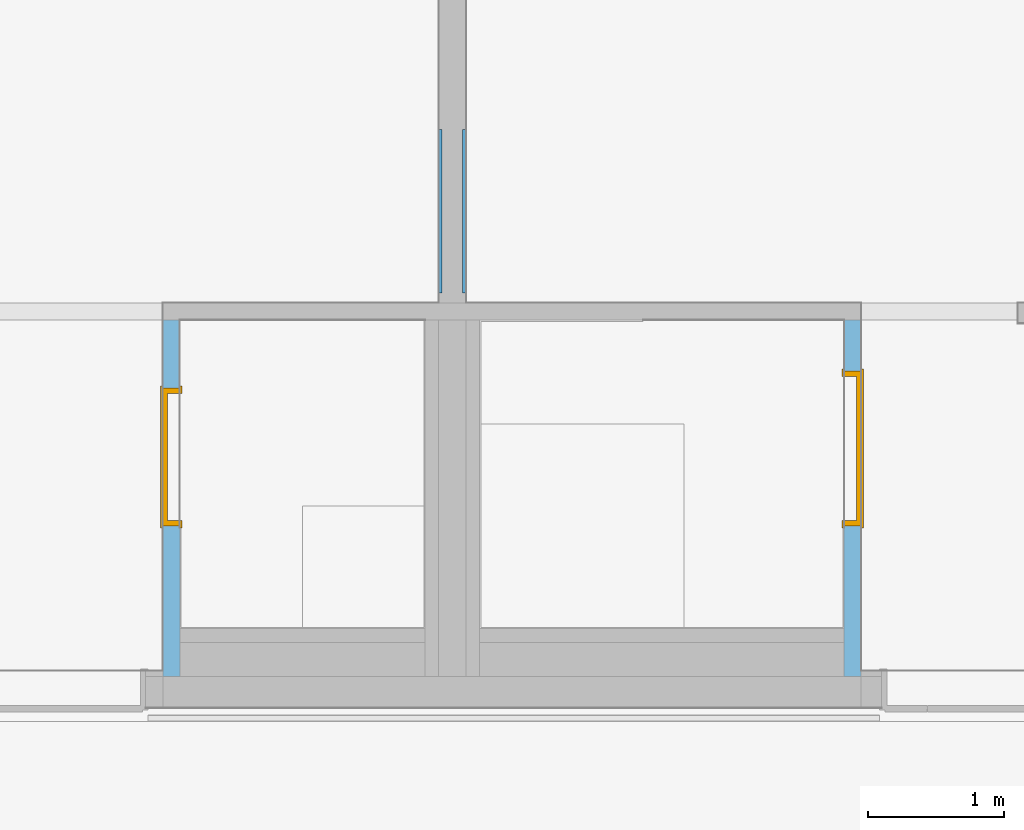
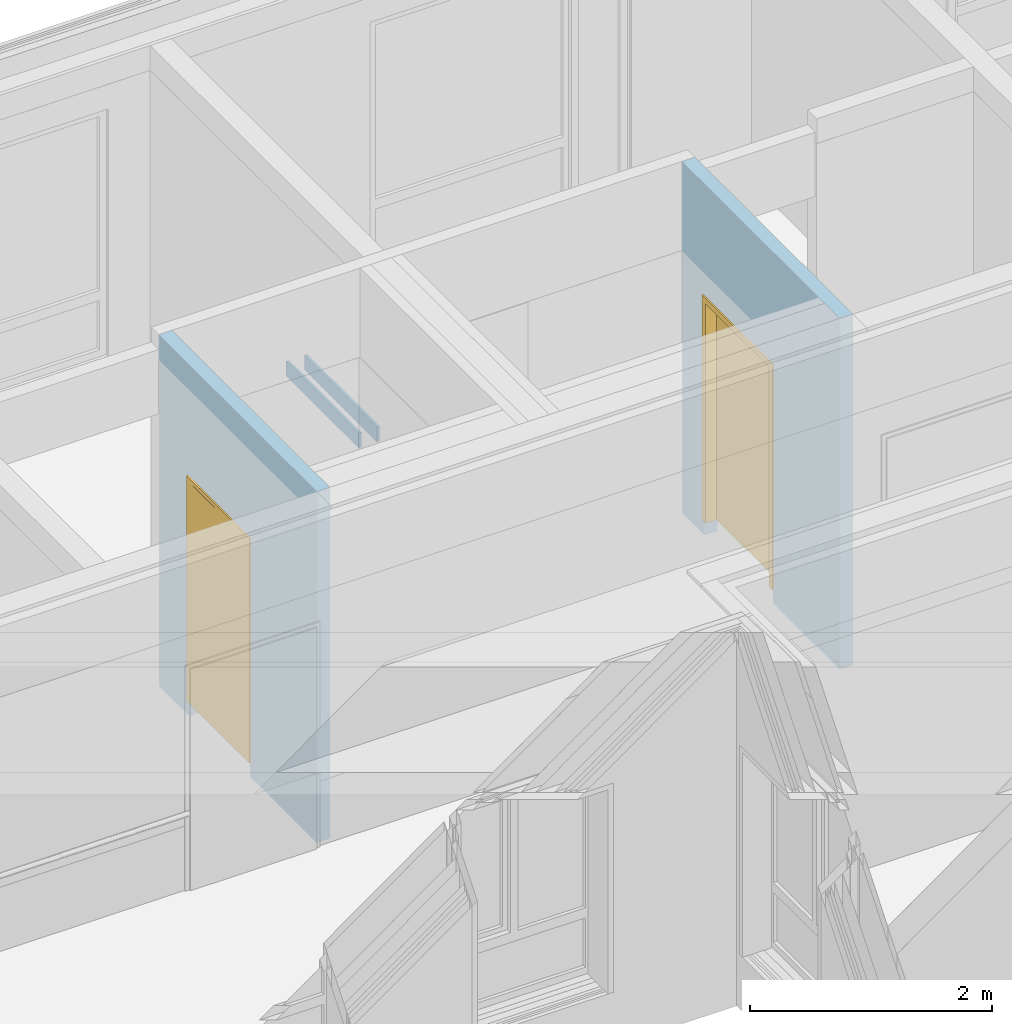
# One storey, part 143 of 222: 2 doors, 2 walls, 2 openings, plus 2 elements that do not belong to this part.
"""IFC4 building model written with IfcOpenShell, lengths in metres."""

from ifc_helpers import new_model, entity, si_unit, converted_unit, derived_unit, frame, frame_2d, origin, origin_with_axes, place, context, subcontext, project, spatial, polyline, rectangle, outline, extrude, faceted_brep, source, transform, mapped, material, type_object, element, fill, save


model = new_model("IFC4")

# Units and contexts
model_context = context("Model", 3, precision=1e-05, world=origin())
body_context = subcontext(model_context, "Body", "Model", "MODEL_VIEW")
ifc_project = project(units=[si_unit("LENGTHUNIT", "METRE"), si_unit("AREAUNIT", "SQUARE_METRE"), si_unit("VOLUMEUNIT", "CUBIC_METRE"), si_unit("MASSUNIT", "GRAM", prefix="KILO"), converted_unit("PLANEANGLEUNIT", "DEGREE", entity("IfcPlaneAngleMeasure", 0.0174532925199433), si_unit("PLANEANGLEUNIT", "RADIAN"), dimensions=[0, 0, 0, 0, 0, 0, 0]), derived_unit("THERMALTRANSMITTANCEUNIT", [(si_unit("POWERUNIT", "WATT"), 1), (si_unit("THERMODYNAMICTEMPERATUREUNIT", "KELVIN"), -1), (si_unit("LENGTHUNIT", "METRE"), -2)]), derived_unit("VOLUMETRICFLOWRATEUNIT", [(si_unit("LENGTHUNIT", "METRE"), 3), (converted_unit("TIMEUNIT", "hour", entity("IfcTimeMeasure", 3600.0), si_unit("TIMEUNIT", "SECOND"), dimensions=[0, 0, 1, 0, 0, 0, 0]), -1), (si_unit("LENGTHUNIT", "METRE"), -1)])], contexts=[model_context])

# Site, building, storey
site_placement = place(None, origin())
site = spatial("IfcSite", under=ifc_project, at=site_placement, Name="Psychiatrie Neubau Wunstorf", CompositionType="ELEMENT")
building_placement = place(site_placement, origin())
building = spatial("IfcBuilding", under=site, at=building_placement, Name="Neubau H2 Stationsgebäude", CompositionType="ELEMENT")
storey_placement = place(building_placement, frame((0.0, 0.0, 3.6)))
storey = spatial("IfcBuildingStorey", under=building, at=storey_placement, Name="H2 Ebene +1", CompositionType="ELEMENT", Elevation=3.6)

# Wall, opening, door
ifc_material_1 = material(Name="WI-LB")
wall_1_placement = place(storey_placement, frame((88.125, 27.9645000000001, 0.0), z_axis=(0.0, 0.0, 1.0), x_axis=(0.0, -1.0, 0.0)))
wall_1 = element("IfcWall", 1, at=wall_1_placement, inside=storey, material=ifc_material_1, context=body_context, shape_type="SweptSolid", body=[
    extrude(rectangle(XDim=2.61500000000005, YDim=0.125, at=frame_2d((1.30750000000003, 0.0625), x_axis=(1.0, 0.0))), origin_with_axes(), (0.0, 0.0, 1.0), 3.55),
])
opening_1_placement = place(wall_1_placement, frame((1.51000000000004, 0.125, 0.0), z_axis=(0.0, -1.0, 0.0), x_axis=(0.0, 0.0, 1.0)))
opening_1 = element("IfcOpeningElement", 2, at=opening_1_placement, cuts=wall_1, Name="Türöffnung", ObjectType="Opening", context=body_context, shape_type="SweptSolid", body=[
    extrude(outline(polyline([(2.41, 1.01), (2.41, 0.0), (0.0, 0.0), (0.0, 1.01), (2.41, 1.01)])), origin_with_axes(), (0.0, 0.0, 1.0), 0.125),
])
ifc_material_2 = material(Name="TI-1F-UZ-D-N")
door_type_1 = type_object("IfcDoorType", Name="SMT", OperationType="SINGLE_SWING_RIGHT", ParameterTakesPrecedence=False, PredefinedType="DOOR")
shared_shape_1 = source(origin_with_axes(), body_context, "Body", "Brep", [
    faceted_brep([(1.04999999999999, 0.0125000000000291, 0.0), (1.04999999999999, 0.112500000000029, 0.0), (1.00999999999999, 0.112500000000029, 0.0), (1.00999999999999, 0.0125000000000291, 0.0), (1.04999999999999, 0.112500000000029, 3.55), (1.04999999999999, 0.0125000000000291, 3.55), (1.00999999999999, 0.0125000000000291, 3.55), (1.00999999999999, 0.112500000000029, 3.55)], [[[0, 1, 2, 3]], [[4, 5, 6, 7]], [[1, 0, 5, 4]], [[2, 1, 4, 7]], [[3, 2, 7, 6]], [[0, 3, 6, 5]]], orient=[[False], [False], [False], [False], [False], [False]]),
    faceted_brep([(0.0, 0.0125000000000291, 0.0), (0.0, 0.112500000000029, 0.0), (-0.0400000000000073, 0.112500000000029, 0.0), (-0.0400000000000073, 0.0125000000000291, 0.0), (0.0, 0.112500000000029, 3.55), (0.0, 0.0125000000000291, 3.55), (-0.0400000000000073, 0.0125000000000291, 3.55), (-0.0400000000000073, 0.112500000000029, 3.55)], [[[0, 1, 2, 3]], [[4, 5, 6, 7]], [[1, 0, 5, 4]], [[2, 1, 4, 7]], [[3, 2, 7, 6]], [[0, 3, 6, 5]]], orient=[[False], [False], [False], [False], [False], [False]]),
    faceted_brep([(1.00999999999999, 0.0125000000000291, 2.41), (1.00999999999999, 0.112500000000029, 2.41), (0.0, 0.112500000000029, 2.41), (0.0, 0.0125000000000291, 2.41), (1.00999999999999, 0.112500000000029, 2.45), (1.00999999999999, 0.0125000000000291, 2.45), (0.0, 0.0125000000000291, 2.45), (0.0, 0.112500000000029, 2.45)], [[[0, 1, 2, 3]], [[4, 5, 6, 7]], [[1, 0, 5, 4]], [[2, 1, 4, 7]], [[3, 2, 7, 6]], [[0, 3, 6, 5]]], orient=[[False], [False], [False], [False], [False], [False]]),
])
shared_shape_2 = source(origin_with_axes(), body_context, "Body", "Brep", [
    faceted_brep([(0.0, -0.0149999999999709, 2.41), (0.0399999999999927, -0.0149999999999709, 2.41), (0.0399999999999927, -0.0149999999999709, 0.15), (0.0, -0.0149999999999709, 0.15), (0.0, 0.140000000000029, 0.15), (0.0399999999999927, 0.140000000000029, 0.15), (0.0399999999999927, 0.140000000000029, 2.41), (0.0, 0.140000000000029, 2.41)], [[[0, 1, 2, 3]], [[4, 5, 6, 7]], [[3, 4, 7, 0]], [[2, 5, 4, 3]], [[1, 6, 5, 2]], [[0, 7, 6, 1]]], orient=[[False], [False], [False], [False], [False], [False]]),
    faceted_brep([(0.0, -0.0149999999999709, 2.425), (0.0, -0.0149999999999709, 0.15), (-0.0150000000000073, -0.0149999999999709, 0.15), (-0.0150000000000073, -0.0149999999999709, 2.425), (0.0, 0.0, 0.15), (0.0, 0.0, 2.425), (-0.0150000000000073, 0.0, 2.425), (-0.0150000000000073, 0.0, 0.15)], [[[0, 1, 2, 3]], [[4, 5, 6, 7]], [[1, 0, 5, 4]], [[2, 1, 4, 7]], [[3, 2, 7, 6]], [[0, 3, 6, 5]]], orient=[[False], [False], [False], [False], [False], [False]]),
    faceted_brep([(0.0, 0.125000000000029, 2.425), (0.0, 0.125000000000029, 0.15), (-0.0150000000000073, 0.125000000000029, 0.15), (-0.0150000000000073, 0.125000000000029, 2.425), (0.0, 0.140000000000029, 0.15), (0.0, 0.140000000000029, 2.425), (-0.0150000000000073, 0.140000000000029, 2.425), (-0.0150000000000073, 0.140000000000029, 0.15)], [[[0, 1, 2, 3]], [[4, 5, 6, 7]], [[1, 0, 5, 4]], [[2, 1, 4, 7]], [[3, 2, 7, 6]], [[0, 3, 6, 5]]], orient=[[False], [False], [False], [False], [False], [False]]),
    faceted_brep([(0.969999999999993, -0.0149999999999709, 2.41), (1.00999999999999, -0.0149999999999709, 2.41), (1.00999999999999, -0.0149999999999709, 0.15), (0.969999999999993, -0.0149999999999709, 0.15), (0.969999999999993, 0.140000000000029, 0.15), (1.00999999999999, 0.140000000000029, 0.15), (1.00999999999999, 0.140000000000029, 2.41), (0.969999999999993, 0.140000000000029, 2.41)], [[[0, 1, 2, 3]], [[4, 5, 6, 7]], [[3, 4, 7, 0]], [[2, 5, 4, 3]], [[1, 6, 5, 2]], [[0, 7, 6, 1]]], orient=[[False], [False], [False], [False], [False], [False]]),
    faceted_brep([(1.00999999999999, -0.0149999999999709, 2.425), (1.02499999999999, -0.0149999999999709, 2.425), (1.02499999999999, -0.0149999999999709, 0.15), (1.00999999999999, -0.0149999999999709, 0.15), (1.00999999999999, 0.0, 0.15), (1.02499999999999, 0.0, 0.15), (1.02499999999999, 0.0, 2.425), (1.00999999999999, 0.0, 2.425)], [[[0, 1, 2, 3]], [[4, 5, 6, 7]], [[3, 4, 7, 0]], [[2, 5, 4, 3]], [[1, 6, 5, 2]], [[0, 7, 6, 1]]], orient=[[False], [False], [False], [False], [False], [False]]),
    faceted_brep([(1.00999999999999, 0.125000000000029, 2.425), (1.02499999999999, 0.125000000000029, 2.425), (1.02499999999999, 0.125000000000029, 0.15), (1.00999999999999, 0.125000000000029, 0.15), (1.00999999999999, 0.140000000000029, 0.15), (1.02499999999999, 0.140000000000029, 0.15), (1.02499999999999, 0.140000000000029, 2.425), (1.00999999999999, 0.140000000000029, 2.425)], [[[0, 1, 2, 3]], [[4, 5, 6, 7]], [[3, 4, 7, 0]], [[2, 5, 4, 3]], [[1, 6, 5, 2]], [[0, 7, 6, 1]]], orient=[[False], [False], [False], [False], [False], [False]]),
    faceted_brep([(0.0399999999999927, -0.0149999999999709, 2.41), (0.969999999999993, -0.0149999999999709, 2.41), (0.969999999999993, -0.0149999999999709, 2.37), (0.0399999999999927, -0.0149999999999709, 2.37), (0.0399999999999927, 0.140000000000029, 2.37), (0.969999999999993, 0.140000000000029, 2.37), (0.969999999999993, 0.140000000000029, 2.41), (0.0399999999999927, 0.140000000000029, 2.41)], [[[0, 1, 2, 3]], [[4, 5, 6, 7]], [[3, 4, 7, 0]], [[2, 5, 4, 3]], [[1, 6, 5, 2]], [[0, 7, 6, 1]]], orient=[[False], [False], [False], [False], [False], [False]]),
    faceted_brep([(0.0, -0.0149999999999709, 2.425), (1.00999999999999, -0.0149999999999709, 2.425), (1.00999999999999, -0.0149999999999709, 2.41), (0.0, -0.0149999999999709, 2.41), (0.0, 0.0, 2.41), (1.00999999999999, 0.0, 2.41), (1.00999999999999, 0.0, 2.425), (0.0, 0.0, 2.425)], [[[0, 1, 2, 3]], [[4, 5, 6, 7]], [[3, 4, 7, 0]], [[2, 5, 4, 3]], [[1, 6, 5, 2]], [[0, 7, 6, 1]]], orient=[[False], [False], [False], [False], [False], [False]]),
    faceted_brep([(0.0, 0.125000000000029, 2.425), (1.00999999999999, 0.125000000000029, 2.425), (1.00999999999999, 0.125000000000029, 2.41), (0.0, 0.125000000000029, 2.41), (0.0, 0.140000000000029, 2.41), (1.00999999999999, 0.140000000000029, 2.41), (1.00999999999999, 0.140000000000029, 2.425), (0.0, 0.140000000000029, 2.425)], [[[0, 1, 2, 3]], [[4, 5, 6, 7]], [[3, 4, 7, 0]], [[2, 5, 4, 3]], [[1, 6, 5, 2]], [[0, 7, 6, 1]]], orient=[[False], [False], [False], [False], [False], [False]]),
    faceted_brep([(0.0249999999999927, 0.0910000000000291, 2.385), (0.984999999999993, 0.0910000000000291, 2.385), (0.984999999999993, 0.0910000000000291, 0.15), (0.0249999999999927, 0.0910000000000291, 0.15), (0.0249999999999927, 0.141000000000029, 0.15), (0.984999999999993, 0.141000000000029, 0.15), (0.984999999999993, 0.141000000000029, 2.385), (0.0249999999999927, 0.141000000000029, 2.385)], [[[0, 1, 2, 3]], [[4, 5, 6, 7]], [[3, 4, 7, 0]], [[2, 5, 4, 3]], [[1, 6, 5, 2]], [[0, 7, 6, 1]]], orient=[[False], [False], [False], [False], [False], [False]]),
])
door_1_placement = place(opening_1_placement, frame((0.0, 0.0, 0.0), z_axis=(1.0, 0.0, 0.0), x_axis=(0.0, 1.0, 0.0)))
door_1 = element("IfcDoor", 3, at=door_1_placement, inside=storey, type_object=door_type_1, material=ifc_material_2, Name="SMT", OverallHeight=2.41, OverallWidth=1.01, context=body_context, shape_type="MappedRepresentation", body=[
    mapped(shared_shape_1, transform((0.0, 0.0, 0.0), x_axis=(1.0, 0.0, 0.0), y_axis=(0.0, 1.0, 0.0), z_axis=(0.0, 0.0, 1.0), scale=1.0)),
    mapped(shared_shape_2, transform((0.0, 0.0, 0.0), x_axis=(1.0, 0.0, 0.0), y_axis=(0.0, 1.0, 0.0), z_axis=(0.0, 0.0, 1.0), scale=1.0)),
])
fill(opening_1, door_1)

ifc_material_3 = material(Name="WI-LB")
wall_2_placement = place(storey_placement, frame((93.125, 27.9645000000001, 0.0), z_axis=(0.0, 0.0, 1.0), x_axis=(0.0, -1.0, 0.0)))
wall_2 = element("IfcWall", 4, at=wall_2_placement, inside=storey, material=ifc_material_3, context=body_context, shape_type="SweptSolid", body=[
    extrude(rectangle(XDim=2.61500000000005, YDim=0.125, at=frame_2d((1.30750000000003, 0.0625), x_axis=(1.0, 0.0))), origin_with_axes(), (0.0, 0.0, 1.0), 3.55),
])
opening_2_placement = place(wall_2_placement, frame((0.375000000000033, 0.0, 0.0), z_axis=(0.0, 1.0, 0.0), x_axis=(0.0, 0.0, 1.0)))
opening_2 = element("IfcOpeningElement", 5, at=opening_2_placement, cuts=wall_2, Name="Türöffnung", ObjectType="Opening", context=body_context, shape_type="SweptSolid", body=[
    extrude(outline(polyline([(2.41, 1.135), (2.41, 0.0), (0.0, 0.0), (0.0, 1.135), (2.41, 1.135)])), origin_with_axes(), (0.0, 0.0, 1.0), 0.125),
])
ifc_material_4 = material(Name="TI-1F-UZ-D-N")
door_type_2 = type_object("IfcDoorType", Name="SMT", OperationType="SINGLE_SWING_RIGHT", ParameterTakesPrecedence=False, PredefinedType="DOOR")
shared_shape_3 = source(origin_with_axes(), body_context, "Body", "Brep", [
    faceted_brep([(1.18500000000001, 0.0124999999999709, 0.0), (1.18500000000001, 0.112499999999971, 0.0), (1.13500000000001, 0.112499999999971, 0.0), (1.13500000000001, 0.0124999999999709, 0.0), (1.18500000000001, 0.112499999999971, 3.55), (1.18500000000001, 0.0124999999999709, 3.55), (1.13500000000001, 0.0124999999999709, 3.55), (1.13500000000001, 0.112499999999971, 3.55)], [[[0, 1, 2, 3]], [[4, 5, 6, 7]], [[1, 0, 5, 4]], [[2, 1, 4, 7]], [[3, 2, 7, 6]], [[0, 3, 6, 5]]], orient=[[False], [False], [False], [False], [False], [False]]),
    faceted_brep([(0.0, 0.0124999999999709, 0.0), (0.0, 0.112499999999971, 0.0), (-0.0499999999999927, 0.112499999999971, 0.0), (-0.0499999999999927, 0.0124999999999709, 0.0), (0.0, 0.112499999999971, 3.55), (0.0, 0.0124999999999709, 3.55), (-0.0499999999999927, 0.0124999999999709, 3.55), (-0.0499999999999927, 0.112499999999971, 3.55)], [[[0, 1, 2, 3]], [[4, 5, 6, 7]], [[1, 0, 5, 4]], [[2, 1, 4, 7]], [[3, 2, 7, 6]], [[0, 3, 6, 5]]], orient=[[False], [False], [False], [False], [False], [False]]),
    faceted_brep([(1.13500000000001, 0.0124999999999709, 2.41), (1.13500000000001, 0.112499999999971, 2.41), (0.0, 0.112499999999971, 2.41), (0.0, 0.0124999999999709, 2.41), (1.13500000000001, 0.112499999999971, 2.46), (1.13500000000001, 0.0124999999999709, 2.46), (0.0, 0.0124999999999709, 2.46), (0.0, 0.112499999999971, 2.46)], [[[0, 1, 2, 3]], [[4, 5, 6, 7]], [[1, 0, 5, 4]], [[2, 1, 4, 7]], [[3, 2, 7, 6]], [[0, 3, 6, 5]]], orient=[[False], [False], [False], [False], [False], [False]]),
])
shared_shape_4 = source(origin_with_axes(), body_context, "Body", "Brep", [
    faceted_brep([(-0.0499999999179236, 0.0125000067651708, 0.0), (0.0, 0.0125000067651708, 0.0), (0.0, 0.112499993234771, 0.0), (-0.0499999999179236, 0.112499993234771, 0.0), (-0.0499999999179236, 0.112499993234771, 3.55), (0.0, 0.112499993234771, 3.55), (0.0, 0.0125000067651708, 3.55), (-0.0499999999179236, 0.0125000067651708, 3.55)], [[[0, 1, 2, 3]], [[4, 5, 6, 7]], [[3, 4, 7, 0]], [[2, 5, 4, 3]], [[1, 6, 5, 2]], [[0, 7, 6, 1]]], orient=[[False], [False], [False], [False], [False], [False]]),
    faceted_brep([(1.13500000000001, 0.0125000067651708, 0.0), (1.18499999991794, 0.0125000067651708, 0.0), (1.18499999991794, 0.112499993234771, 0.0), (1.13500000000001, 0.112499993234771, 0.0), (1.13500000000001, 0.112499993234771, 3.55), (1.18499999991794, 0.112499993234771, 3.55), (1.18499999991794, 0.0125000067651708, 3.55), (1.13500000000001, 0.0125000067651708, 3.55)], [[[0, 1, 2, 3]], [[4, 5, 6, 7]], [[3, 4, 7, 0]], [[2, 5, 4, 3]], [[1, 6, 5, 2]], [[0, 7, 6, 1]]], orient=[[False], [False], [False], [False], [False], [False]]),
    faceted_brep([(0.0, 0.0125000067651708, 2.41), (1.13500000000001, 0.0125000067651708, 2.41), (1.13500000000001, 0.112499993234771, 2.41), (0.0, 0.112499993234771, 2.41), (0.0, 0.112499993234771, 2.46), (1.13500000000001, 0.112499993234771, 2.46), (1.13500000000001, 0.0125000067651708, 2.46), (0.0, 0.0125000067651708, 2.46)], [[[0, 1, 2, 3]], [[4, 5, 6, 7]], [[3, 4, 7, 0]], [[2, 5, 4, 3]], [[1, 6, 5, 2]], [[0, 7, 6, 1]]], orient=[[False], [False], [False], [False], [False], [False]]),
])
shared_shape_5 = source(origin_with_axes(), body_context, "Body", "Brep", [
    faceted_brep([(1.13500000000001, -0.0150000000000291, 2.41), (1.13500000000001, -0.0150000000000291, 0.15), (1.09500000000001, -0.0150000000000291, 0.15), (1.09500000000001, -0.0150000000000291, 2.41), (1.13500000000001, 0.139999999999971, 0.15), (1.13500000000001, 0.139999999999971, 2.41), (1.09500000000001, 0.139999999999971, 2.41), (1.09500000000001, 0.139999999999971, 0.15)], [[[0, 1, 2, 3]], [[4, 5, 6, 7]], [[1, 0, 5, 4]], [[2, 1, 4, 7]], [[3, 2, 7, 6]], [[0, 3, 6, 5]]], orient=[[False], [False], [False], [False], [False], [False]]),
    faceted_brep([(1.13500000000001, -0.0150000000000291, 2.425), (1.15000000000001, -0.0150000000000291, 2.425), (1.15000000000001, -0.0150000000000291, 0.15), (1.13500000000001, -0.0150000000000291, 0.15), (1.13500000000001, 0.0, 0.15), (1.15000000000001, 0.0, 0.15), (1.15000000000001, 0.0, 2.425), (1.13500000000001, 0.0, 2.425)], [[[0, 1, 2, 3]], [[4, 5, 6, 7]], [[3, 4, 7, 0]], [[2, 5, 4, 3]], [[1, 6, 5, 2]], [[0, 7, 6, 1]]], orient=[[False], [False], [False], [False], [False], [False]]),
    faceted_brep([(1.13500000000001, 0.124999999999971, 2.425), (1.15000000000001, 0.124999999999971, 2.425), (1.15000000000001, 0.124999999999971, 0.15), (1.13500000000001, 0.124999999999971, 0.15), (1.13500000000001, 0.139999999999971, 0.15), (1.15000000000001, 0.139999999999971, 0.15), (1.15000000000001, 0.139999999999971, 2.425), (1.13500000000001, 0.139999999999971, 2.425)], [[[0, 1, 2, 3]], [[4, 5, 6, 7]], [[3, 4, 7, 0]], [[2, 5, 4, 3]], [[1, 6, 5, 2]], [[0, 7, 6, 1]]], orient=[[False], [False], [False], [False], [False], [False]]),
    faceted_brep([(0.0400000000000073, -0.0150000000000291, 2.41), (0.0400000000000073, -0.0150000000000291, 0.15), (0.0, -0.0150000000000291, 0.15), (0.0, -0.0150000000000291, 2.41), (0.0400000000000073, 0.139999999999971, 0.15), (0.0400000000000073, 0.139999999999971, 2.41), (0.0, 0.139999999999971, 2.41), (0.0, 0.139999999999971, 0.15)], [[[0, 1, 2, 3]], [[4, 5, 6, 7]], [[1, 0, 5, 4]], [[2, 1, 4, 7]], [[3, 2, 7, 6]], [[0, 3, 6, 5]]], orient=[[False], [False], [False], [False], [False], [False]]),
    faceted_brep([(0.0, -0.0150000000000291, 2.425), (0.0, -0.0150000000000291, 0.15), (-0.0149999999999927, -0.0150000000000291, 0.15), (-0.0149999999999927, -0.0150000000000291, 2.425), (0.0, 0.0, 0.15), (0.0, 0.0, 2.425), (-0.0149999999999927, 0.0, 2.425), (-0.0149999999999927, 0.0, 0.15)], [[[0, 1, 2, 3]], [[4, 5, 6, 7]], [[1, 0, 5, 4]], [[2, 1, 4, 7]], [[3, 2, 7, 6]], [[0, 3, 6, 5]]], orient=[[False], [False], [False], [False], [False], [False]]),
    faceted_brep([(0.0, 0.124999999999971, 2.425), (0.0, 0.124999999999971, 0.15), (-0.0149999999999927, 0.124999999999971, 0.15), (-0.0149999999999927, 0.124999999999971, 2.425), (0.0, 0.139999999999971, 0.15), (0.0, 0.139999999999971, 2.425), (-0.0149999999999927, 0.139999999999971, 2.425), (-0.0149999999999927, 0.139999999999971, 0.15)], [[[0, 1, 2, 3]], [[4, 5, 6, 7]], [[1, 0, 5, 4]], [[2, 1, 4, 7]], [[3, 2, 7, 6]], [[0, 3, 6, 5]]], orient=[[False], [False], [False], [False], [False], [False]]),
    faceted_brep([(1.09500000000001, -0.0150000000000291, 2.41), (1.09500000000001, -0.0150000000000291, 2.37), (0.0400000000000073, -0.0150000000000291, 2.37), (0.0400000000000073, -0.0150000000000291, 2.41), (1.09500000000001, 0.139999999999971, 2.37), (1.09500000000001, 0.139999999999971, 2.41), (0.0400000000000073, 0.139999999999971, 2.41), (0.0400000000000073, 0.139999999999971, 2.37)], [[[0, 1, 2, 3]], [[4, 5, 6, 7]], [[1, 0, 5, 4]], [[2, 1, 4, 7]], [[3, 2, 7, 6]], [[0, 3, 6, 5]]], orient=[[False], [False], [False], [False], [False], [False]]),
    faceted_brep([(1.13500000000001, -0.0150000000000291, 2.425), (1.13500000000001, -0.0150000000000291, 2.41), (0.0, -0.0150000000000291, 2.41), (0.0, -0.0150000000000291, 2.425), (1.13500000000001, 0.0, 2.41), (1.13500000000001, 0.0, 2.425), (0.0, 0.0, 2.425), (0.0, 0.0, 2.41)], [[[0, 1, 2, 3]], [[4, 5, 6, 7]], [[1, 0, 5, 4]], [[2, 1, 4, 7]], [[3, 2, 7, 6]], [[0, 3, 6, 5]]], orient=[[False], [False], [False], [False], [False], [False]]),
    faceted_brep([(1.13500000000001, 0.124999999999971, 2.425), (1.13500000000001, 0.124999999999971, 2.41), (0.0, 0.124999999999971, 2.41), (0.0, 0.124999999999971, 2.425), (1.13500000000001, 0.139999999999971, 2.41), (1.13500000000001, 0.139999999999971, 2.425), (0.0, 0.139999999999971, 2.425), (0.0, 0.139999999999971, 2.41)], [[[0, 1, 2, 3]], [[4, 5, 6, 7]], [[1, 0, 5, 4]], [[2, 1, 4, 7]], [[3, 2, 7, 6]], [[0, 3, 6, 5]]], orient=[[False], [False], [False], [False], [False], [False]]),
    faceted_brep([(1.11000000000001, 0.0909999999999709, 2.385), (1.11000000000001, 0.0909999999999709, 0.15), (0.0250000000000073, 0.0909999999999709, 0.15), (0.0250000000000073, 0.0909999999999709, 2.385), (1.11000000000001, 0.140999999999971, 0.15), (1.11000000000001, 0.140999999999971, 2.385), (0.0250000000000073, 0.140999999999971, 2.385), (0.0250000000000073, 0.140999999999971, 0.15)], [[[0, 1, 2, 3]], [[4, 5, 6, 7]], [[1, 0, 5, 4]], [[2, 1, 4, 7]], [[3, 2, 7, 6]], [[0, 3, 6, 5]]], orient=[[False], [False], [False], [False], [False], [False]]),
])
door_2_placement = place(opening_2_placement, frame((0.0, 0.0, 0.0), z_axis=(1.0, 0.0, 0.0), x_axis=(0.0, 1.0, 0.0)))
door_2 = element("IfcDoor", 6, at=door_2_placement, inside=storey, type_object=door_type_2, material=ifc_material_4, Name="SMT", OverallHeight=2.41, OverallWidth=1.135, context=body_context, shape_type="MappedRepresentation", body=[
    mapped(shared_shape_3, transform((0.0, 0.0, 0.0), x_axis=(1.0, 0.0, 0.0), y_axis=(0.0, 1.0, 0.0), z_axis=(0.0, 0.0, 1.0), scale=1.0)),
    mapped(shared_shape_4, transform((0.0, 0.0, 0.0), x_axis=(1.0, 0.0, 0.0), y_axis=(0.0, 1.0, 0.0), z_axis=(0.0, 0.0, 1.0), scale=1.0)),
    mapped(shared_shape_5, transform((0.0, 0.0, 0.0), x_axis=(1.0, 0.0, 0.0), y_axis=(0.0, 1.0, 0.0), z_axis=(0.0, 0.0, 1.0), scale=1.0)),
])
fill(opening_2, door_2)

# Walls
for number, where, name in (
    (7, (90.3250000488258, 28.1628, 1.575), "WV 1.1"),
    (8, (90.1500000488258, 28.1628, 1.575), "WV 1.1"),
):
    element("IfcWall", number, at=place(storey_placement, frame(where)), inside=storey, Name=name, context=body_context, shape_type="Brep", body=[
        faceted_brep([(0.025, 1.2, 0.0), (0.0, 1.2, 0.0), (0.0, 0.0, 0.0), (0.025, 0.0, 0.0), (0.0, 1.2, 0.15), (0.025, 1.2, 0.15), (0.025, 0.0, 0.15), (0.0, 0.0, 0.15)], [[[0, 1, 2, 3]], [[4, 5, 6, 7]], [[1, 0, 5, 4]], [[2, 1, 4, 7]], [[3, 2, 7, 6]], [[0, 3, 6, 5]]], orient=[[False], [False], [False], [False], [False], [False]]),
    ])

save(model, "model.ifc")
